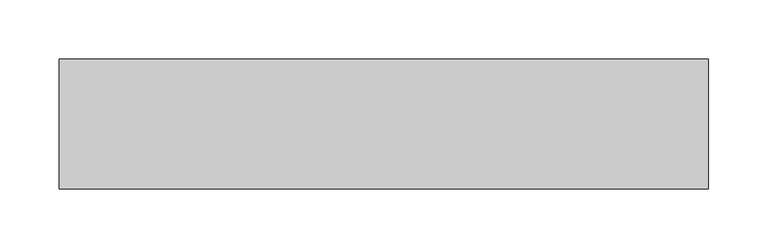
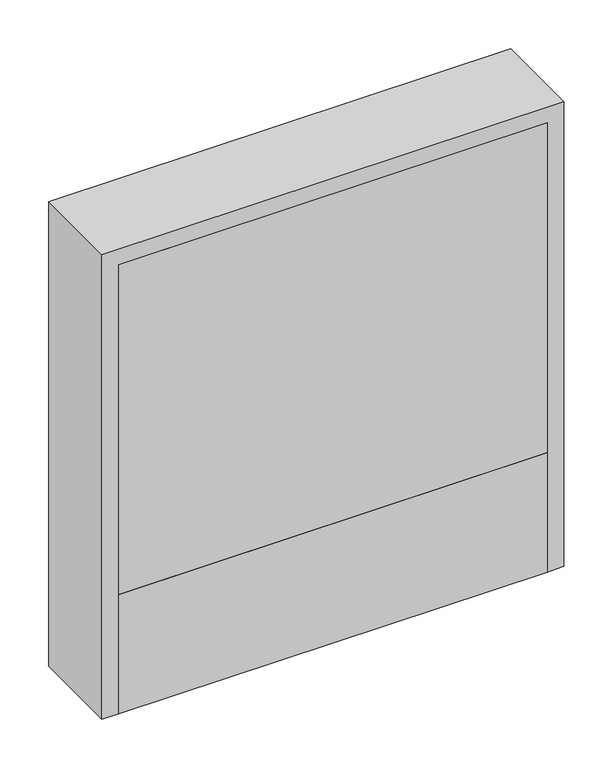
"""IFC4 building model written with IfcOpenShell, lengths in millimetres: valve geometry, PL CZ.HU Cabinet above plaster : SF-WEK0 2-3 manifold loops."""

from ifc_helpers import new_model, si_unit, frame, origin, origin_with_axes, place, context, project, spatial, polyline, outline, extrude, source, transform, mapped, element, save


def valve_6988da8c(model_context):
    return source(origin(), model_context, "Body", "SweptSolid", [
        extrude(outline(polyline([(255.0, 0.0), (-255.0, 0.0), (-255.0, 110.0), (255.0, 110.0), (255.0, 0.0)])), origin_with_axes(), (0.0, 0.0, 1.0), 150.0),
        extrude(outline(polyline([(255.0, 0.0), (-255.0, 0.0), (-255.0, 110.0), (255.0, 110.0), (255.0, 0.0)])), frame((0.0, 0.0, 150.0), z_axis=(0.0, 0.0, 1.0), x_axis=(1.0, 0.0, 0.0)), (0.0, 0.0, 1.0), 415.0),
        extrude(outline(polyline([(585.0, 275.0), (585.0, -275.0), (0.0, -275.0), (0.0, -255.0), (565.0, -255.0), (565.0, 255.0), (0.0, 255.0), (0.0, 275.0), (585.0, 275.0)])), frame((0.0, 0.0, 0.0), z_axis=(0.0, 1.0, 0.0), x_axis=(0.0, 0.0, 1.0)), (0.0, 0.0, 1.0), 110.0),
    ])


if __name__ == "__main__":
    model = new_model("IFC4")
    model_context = context("Model", 3, world=origin())
    ifc_project = project(units=[si_unit("LENGTHUNIT", "METRE", prefix="MILLI")], contexts=[model_context])
    site = spatial("IfcSite", under=ifc_project)
    building = spatial("IfcBuilding", under=site)
    placement = place(None, origin())
    valve_shape = valve_6988da8c(model_context)
    element("IfcValve", 1, ObjectType="PL CZ.HU Cabinet above plaster : SF-WEK0 2-3 manifold loops", at=placement, inside=building, context=model_context, shape_type="MappedRepresentation", body=[
        mapped(valve_shape, transform((0.0, 0.0, 0.0), x_axis=(1.0, 0.0, 0.0), y_axis=(0.0, 1.0, 0.0), z_axis=(0.0, 0.0, 1.0))),
    ])
    save(model, "model.ifc")
